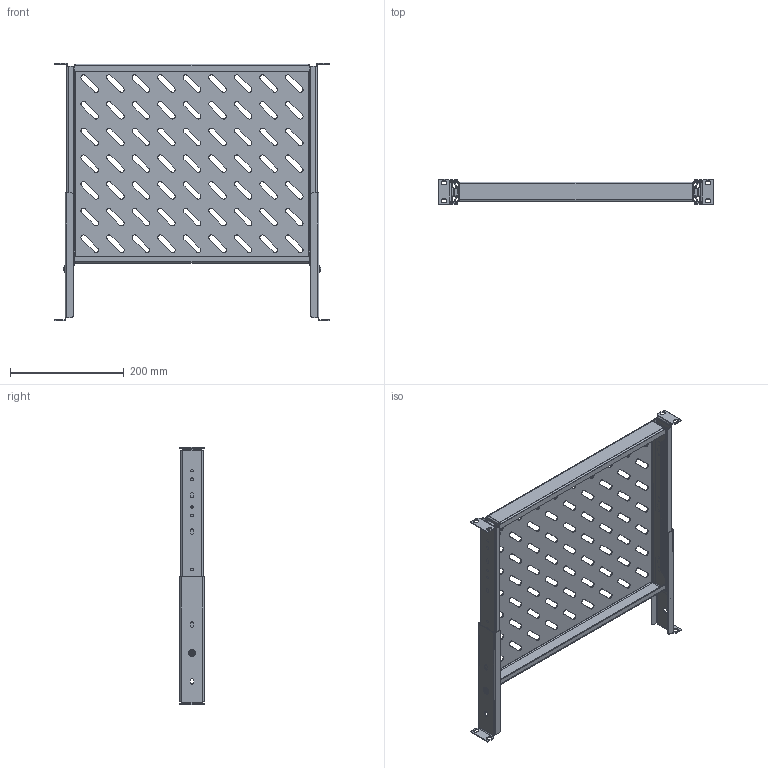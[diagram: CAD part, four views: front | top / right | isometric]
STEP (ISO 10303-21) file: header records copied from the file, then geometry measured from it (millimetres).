
FILE_DESCRIPTION (( 'STEP AP214' ), '1' );
FILE_NAME ('SH 48.35 IÌ Ïîëêà 19'''' âûäâèæíàÿ (450 ìì).STEP', '2022-08-17T13:21:51', ( '' ), ( '' ), 'SwSTEP 2.0', 'SolidWorks 2018', '' );
FILE_SCHEMA (( 'AUTOMOTIVE_DESIGN' ));
Length unit declared in the file: millimetre
Products named in the file (1): SH 48.35 IÌ Ïîëêà 19'''' âûäâèæíàÿ (450 ìì)
Bounding box: 482.6 x 43.6 x 452.8 mm (x, y, z)
Volume: 437709.6 mm3; surface area: 685669.7 mm2
Topology: 13 solids, 13 shells, 1134 faces, 2893 edges, 1778 vertices
Faces by surface type: plane 637, cylinder 473, cone 8, torus 8, sphere 4, bspline 4
Entity records: 47149 total; most frequent: DIRECTION 6127, CARTESIAN_POINT 6030, ORIENTED_EDGE 5778, EDGE_CURVE 2889, AXIS2_PLACEMENT_3D 2115, VECTOR 1897, LINE 1897, VERTEX_POINT 1778
